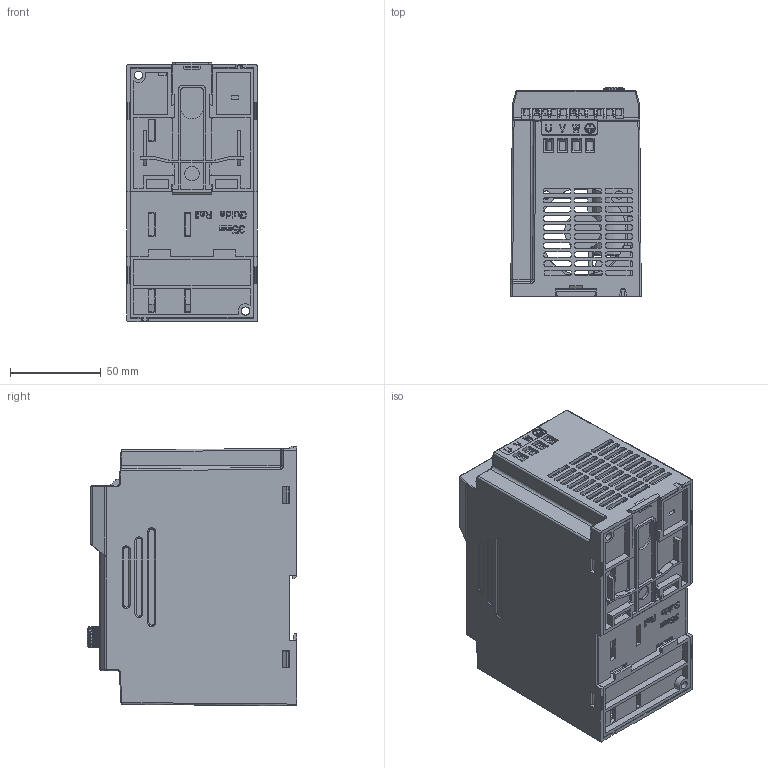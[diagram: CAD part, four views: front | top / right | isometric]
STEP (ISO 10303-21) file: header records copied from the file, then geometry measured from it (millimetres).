
FILE_DESCRIPTION((''),'2;1');
FILE_NAME('VM600G-0_75-2_2KW_ASM','2023-08-31T21:24:29',('A004155'),(''),'CREO PARAMETRIC BY PTC INC, 2020074','CREO PARAMETRIC BY PTC INC, 2020074','');
FILE_SCHEMA(('CONFIG_CONTROL_DESIGN'));
Products named in the file (13): PRT0001_1; VM600-108-102_ASM_6_ASM_1_ASM; DYB-4T2R2_5_1; FANXIA50-1_5_1_1; FANXIA50-1_5_2_1; FANXIA50-1_5_ASM_1_ASM; EU5-04-7P62-01_5_1; KZB-200702_7_1; QJ_ASM_7_ASM_1_ASM; VM600-107-902_5_1; 4-0012-0189-01_5_1; VM600-108-101_ASM_12_ASM_1_ASM; VM600G-0_75-2_2KW_ASM
Assembly tree (13 placements, depth 5):
  VM600G-0_75-2_2KW_ASM
    VM600-108-101_ASM_12_ASM_1_ASM
      VM600-108-102_ASM_6_ASM_1_ASM
        PRT0001_1
      QJ_ASM_7_ASM_1_ASM
        DYB-4T2R2_5_1
        FANXIA50-1_5_ASM_1_ASM
          FANXIA50-1_5_1_1
          FANXIA50-1_5_2_1
        EU5-04-7P62-01_5_1  x2
        KZB-200702_7_1
      VM600-107-902_5_1
      4-0012-0189-01_5_1
Bounding box: 72 x 115.5 x 143.25 mm (x, y, z)
Volume: 168686.3 mm3; surface area: 260885.7 mm2
Topology: 8 solids, 24 shells, 4653 faces, 13218 edges, 8794 vertices
Faces by surface type: plane 3303, cylinder 1112, bspline 100, cone 100, torus 32, sphere 4, revolution 2
Entity records: 153793 total; most frequent: CARTESIAN_POINT 34922, ORIENTED_EDGE 25906, DIRECTION 22533, EDGE_CURVE 12981, VECTOR 9849, LINE 9849, VERTEX_POINT 8644, AXIS2_PLACEMENT_3D 6341
